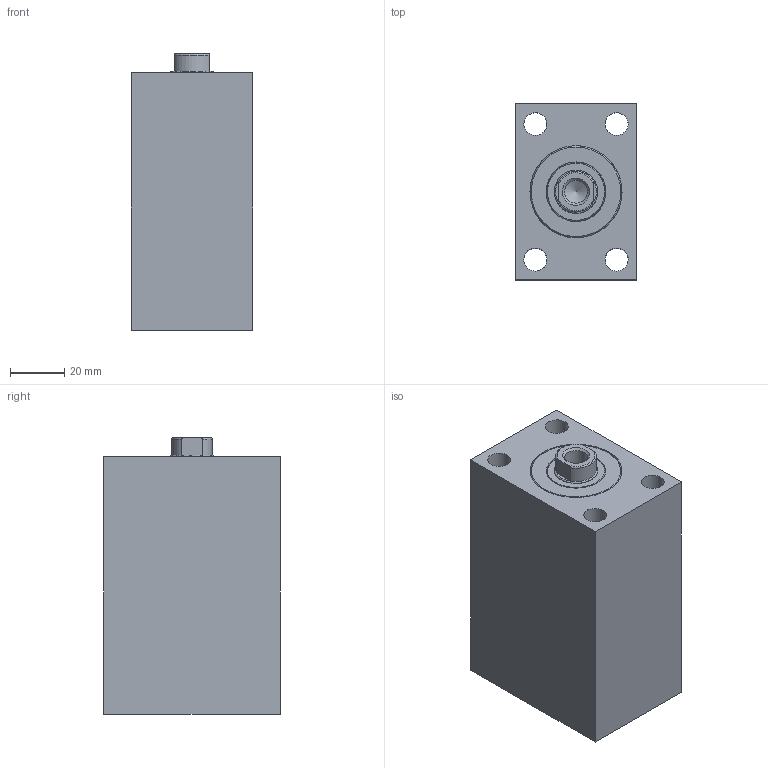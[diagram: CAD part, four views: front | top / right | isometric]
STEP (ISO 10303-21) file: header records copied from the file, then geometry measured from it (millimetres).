
FILE_DESCRIPTION( ( 'STEP AP203' ), '1' );
FILE_NAME( 'C:/Users/SAYKO.ltd/Desktop/SBZ100/02/SBZ100-25/SBZ100.25__FORM_02_STROKE_30__H2_58_POS_0_.stp', ' ', ( ' ' ), ( ' ' ), 'PSStep 15.0.47', 'PARTsolutions', ' ' );
FILE_SCHEMA( ( 'CONFIG_CONTROL_DESIGN' ) );
Length unit declared in the file: millimetre
Products named in the file (5): SBZ100.25  FORM=02 STROKE=30 (H2=58 POS=0); HI_SBZ10025  FORM=02 STROKE=30 H2=58 -C; HI_SBZ10025  FORM=02 STROKE=30-R; HI_SBZ100.25-C; HI_SBZ100.25-S
Assembly tree (4 placements, depth 2):
  SBZ100.25  FORM=02 STROKE=30 (H2=58 POS=0)
    HI_SBZ10025  FORM=02 STROKE=30 H2=58 -C
    HI_SBZ10025  FORM=02 STROKE=30-R
    HI_SBZ100.25-C
    HI_SBZ100.25-S
Bounding box: 45 x 65 x 102 mm (x, y, z)
Volume: 241007.3 mm3; surface area: 58901 mm2
Topology: 4 solids, 4 shells, 66 faces, 130 edges, 85 vertices
Faces by surface type: plane 31, cylinder 28, cone 4, torus 3
Full cylindrical faces by diameter (mm): 3 x2, 8.376 x1, 8.5 x4, 11.445 x2, 13.6 x4, 16 x6, 22 x1, 24 x2, 25 x2, 34 x2
Entity records: 3609 total; most frequent: CARTESIAN_POINT 2379, ORIENTED_EDGE 176, DIRECTION 158, EDGE_LOOP 128, FACE_OUTER_BOUND 93, EDGE_CURVE 88, VERTEX_POINT 77, B_SPLINE_CURVE_WITH_KNOTS 72
